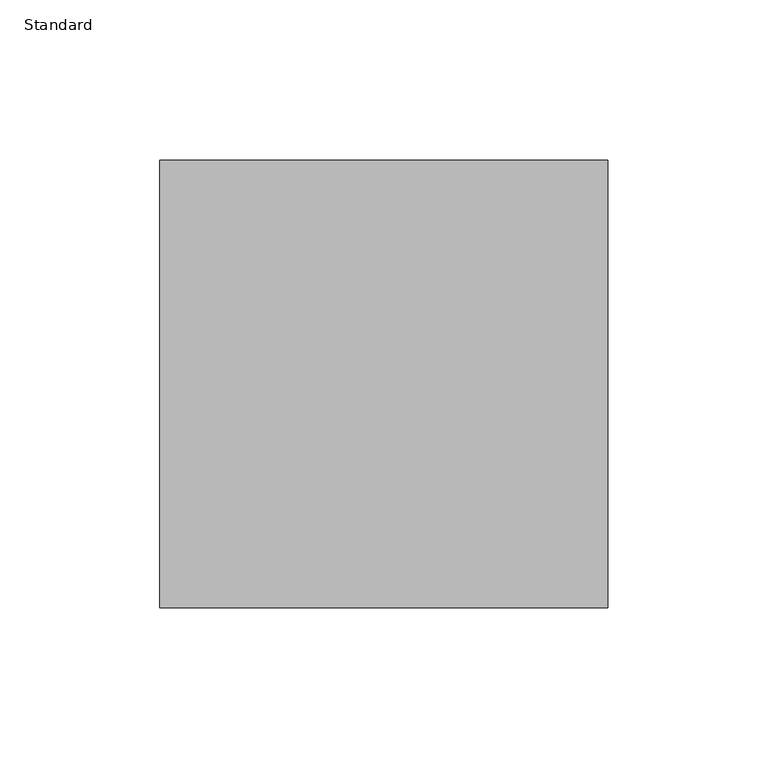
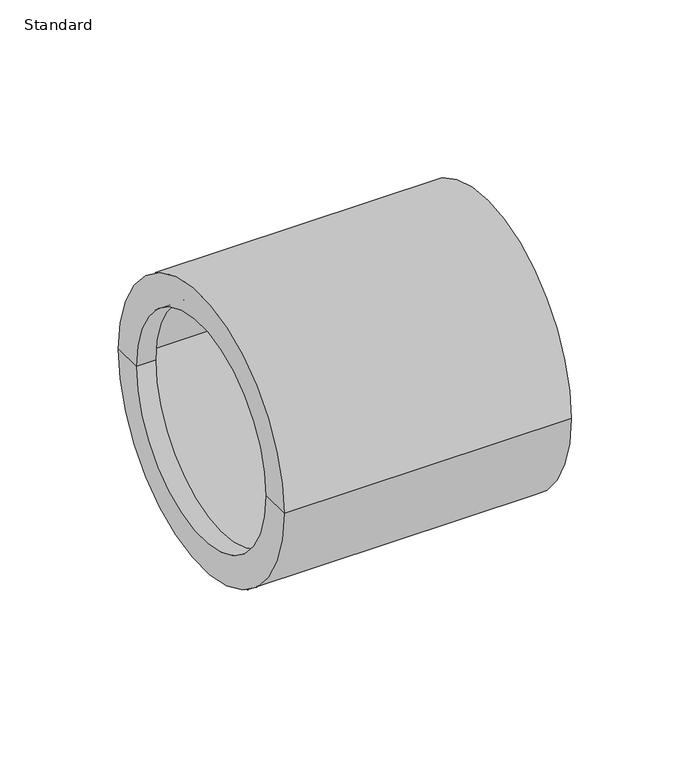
"""IFC4 building model written with IfcOpenShell, lengths in millimetres: pipe fitting geometry, Durapipe_PipeFitting_PVC_ReducingBush : Standard."""

from ifc_helpers import new_model, si_unit, frame, origin, place, context, project, spatial, polyline, circle_curve, source, transform, mapped, element, save
from ifc_brep_helpers import plane_surface, cylinder_surface, revolved_surface, advanced_brep


def standard_af5c8028(model_context):
    return source(origin(), model_context, "Body", "AdvancedBrep", [
        advanced_brep(
        [(-9.5, -55.0, 0.0), (-9.5, 55.0, 0.0), (-9.5, 70.0, 0.0), (-9.5, -70.0, 0.0), (0.0, -55.0, 0.0), (0.0, 55.0, 0.0), (0.0, -62.5, 0.0), (0.0, 62.5, 0.0), (130.5, -62.5, 0.0), (130.5, 62.5, 0.0), (130.5, -70.0, 0.0), (130.5, 70.0, 0.0)],
        [
            (0, 1, circle_curve(frame((-9.5, 0.0, 0.0), z_axis=(1.0, 0.0, 0.0), x_axis=(0.0, 1.0, 0.0)), 55.0)),
            (1, 2),
            (2, 3, circle_curve(frame((-9.5, 0.0, 0.0), z_axis=(-1.0, 0.0, 0.0), x_axis=(0.0, 1.0, 0.0)), 70.0)),
            (3, 0),
            (1, 0, circle_curve(frame((-9.5, 0.0, 0.0), z_axis=(1.0, 0.0, 0.0), x_axis=(0.0, 1.0, 0.0)), 55.0)),
            (3, 2, circle_curve(frame((-9.5, 0.0, 0.0), z_axis=(-1.0, 0.0, 0.0), x_axis=(0.0, 1.0, 0.0)), 70.0)),
            (4, 5, circle_curve(frame((0.0, 0.0, 0.0), z_axis=(1.0, 0.0, 0.0), x_axis=(0.0, 1.0, 0.0)), 55.0)),
            (5, 1),
            (0, 4),
            (5, 4, circle_curve(frame((0.0, 0.0, 0.0), z_axis=(1.0, 0.0, 0.0), x_axis=(0.0, 1.0, 0.0)), 55.0)),
            (6, 7, circle_curve(frame((0.0, 0.0, 0.0), z_axis=(1.0, 0.0, 0.0), x_axis=(0.0, 1.0, 0.0)), 62.5)),
            (7, 5),
            (4, 6),
            (7, 6, circle_curve(frame((0.0, 0.0, 0.0), z_axis=(1.0, 0.0, 0.0), x_axis=(0.0, 1.0, 0.0)), 62.5)),
            (8, 9, circle_curve(frame((130.5, 0.0, 0.0), z_axis=(1.0, 0.0, 0.0), x_axis=(0.0, 1.0, 0.0)), 62.5)),
            (9, 7),
            (6, 8),
            (9, 8, circle_curve(frame((130.5, 0.0, 0.0), z_axis=(1.0, 0.0, 0.0), x_axis=(0.0, 1.0, 0.0)), 62.5)),
            (10, 11, circle_curve(frame((130.5, 0.0, 0.0), z_axis=(1.0, 0.0, 0.0), x_axis=(0.0, 1.0, 0.0)), 70.0)),
            (11, 9),
            (8, 10),
            (11, 10, circle_curve(frame((130.5, 0.0, 0.0), z_axis=(1.0, 0.0, 0.0), x_axis=(0.0, 1.0, 0.0)), 70.0)),
            (2, 11),
            (10, 3),
        ],
        [
            plane_surface(frame((-9.5, 0.0, 0.0), z_axis=(-1.0, 0.0, 0.0), x_axis=(0.0, 1.0, 0.0))),
            revolved_surface(polyline([(-9.5, 55.0, 0.0), (0.0, 55.0, 0.0)]), (2116.5, 0.0, 0.0), (-1.0, 0.0, 0.0)),
            plane_surface(frame((0.0, 0.0, 0.0), z_axis=(1.0, 0.0, 0.0), x_axis=(0.0, 1.0, 0.0))),
            revolved_surface(polyline([(0.0, 62.5, 0.0), (130.5, 62.5, 0.0)]), (2116.5, 0.0, 0.0), (-1.0, 0.0, 0.0)),
            plane_surface(frame((130.5, 0.0, 0.0), z_axis=(1.0, 0.0, 0.0), x_axis=(0.0, 1.0, 0.0))),
            cylinder_surface(frame((2116.5, 0.0, 0.0), z_axis=(-1.0, 0.0, 0.0), x_axis=(0.0, 1.0, 0.0)), 70.0),
        ],
        [
            (0, [[1, 2, 3, 4]]),
            (0, [[5, -4, 6, -2]]),
            (1, [[7, 8, -1, 9]]),
            (1, [[10, -9, -5, -8]]),
            (2, [[11, 12, -7, 13]]),
            (2, [[14, -13, -10, -12]]),
            (3, [[15, 16, -11, 17]]),
            (3, [[18, -17, -14, -16]]),
            (4, [[19, 20, -15, 21]]),
            (4, [[22, -21, -18, -20]]),
            (5, [[-3, 23, -19, 24]]),
            (5, [[-6, -24, -22, -23]]),
        ],
    ),
    ])


if __name__ == "__main__":
    model = new_model("IFC4")
    model_context = context("Model", 3, world=origin())
    ifc_project = project(units=[si_unit("LENGTHUNIT", "METRE", prefix="MILLI")], contexts=[model_context])
    site = spatial("IfcSite", under=ifc_project)
    building = spatial("IfcBuilding", under=site)
    placement = place(None, origin())
    standard_shape = standard_af5c8028(model_context)
    element("IfcPipeFitting", 1, ObjectType="Durapipe_PipeFitting_PVC_ReducingBush : Standard", at=placement, inside=building, context=model_context, shape_type="MappedRepresentation", body=[
        mapped(standard_shape, transform((0.0, 0.0, 0.0), x_axis=(1.0, 0.0, 0.0), y_axis=(0.0, 1.0, 0.0), z_axis=(0.0, 0.0, 1.0))),
    ])
    save(model, "model.ifc")
